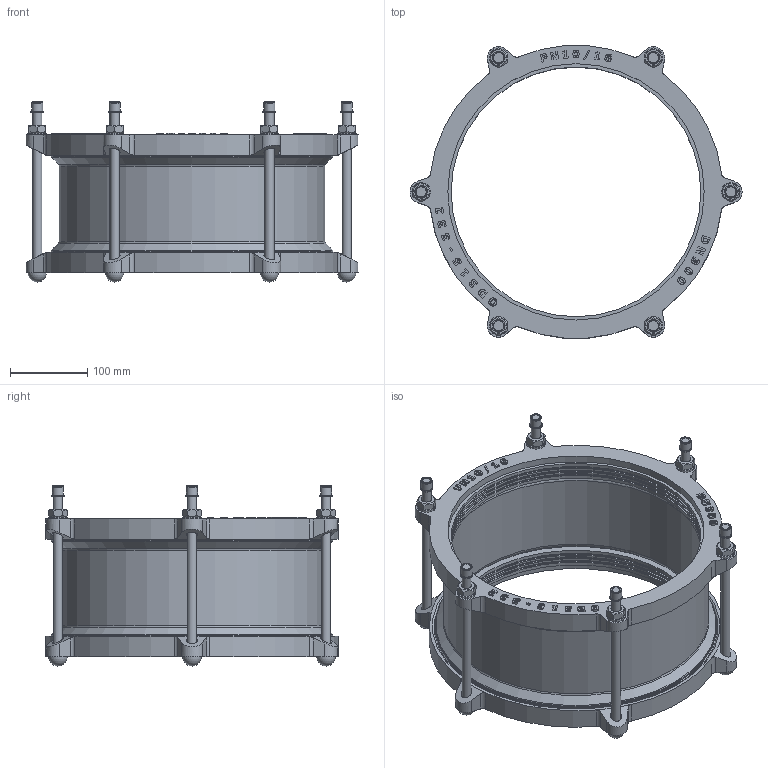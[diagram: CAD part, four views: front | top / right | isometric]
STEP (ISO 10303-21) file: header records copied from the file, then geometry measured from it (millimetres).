
FILE_DESCRIPTION(('STEP AP203'), '1');
FILE_NAME('Cîåäèíèòåëüíàÿ ìóôòà äëÿ æåñòêèõ òðóá', '', ('UNSPECIFIED'), ('UNSPECIFIED'), 'C3D Converter', 'C3D Toolkit', '');
FILE_SCHEMA(('CONFIG_CONTROL_DESIGN'));
Length unit declared in the file: millimetre
Assembly tree (29 placements, depth 2):
  (unnamed)
    (unnamed)
    (unnamed)  x6
    (unnamed)  x6
    (unnamed)  x6
    (unnamed)  x6
    (unnamed)
    (unnamed)
    (unnamed)  x2
Bounding box: 430 x 378.78 x 233.2 mm (x, y, z)
Volume: 2798716.9 mm3; surface area: 870045.6 mm2
Topology: 33 solids, 33 shells, 950 faces, 2403 edges, 1578 vertices
Faces by surface type: extrusion 398, plane 335, cylinder 139, cone 48, torus 24, sphere 6
Full cylindrical faces by diameter (mm): 12 x18, 13 x6, 14 x12, 14.4 x6, 16.8 x6, 21.172 x1, 24 x6, 323.5 x8, 327.75 x6, 332 x3, 338 x2, 344 x3, 365 x2, 368 x4
Entity records: 37334 total; most frequent: CARTESIAN_POINT 13926, ORIENTED_EDGE 4042, DIRECTION 2523, EDGE_CURVE 2021, VERTEX_POINT 1376, VECTOR 1315, B_SPLINE_CURVE_WITH_KNOTS 1279, EDGE_LOOP 937
